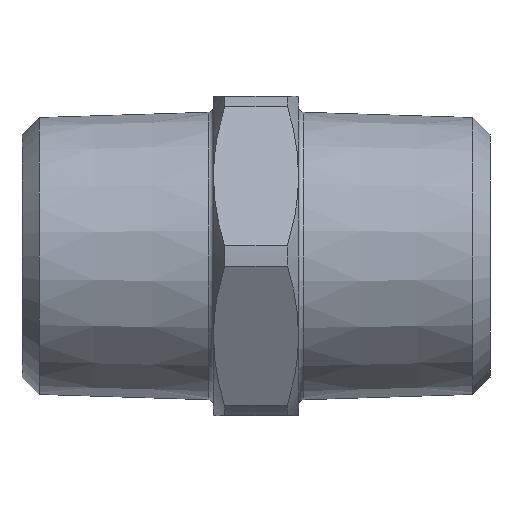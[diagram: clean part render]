
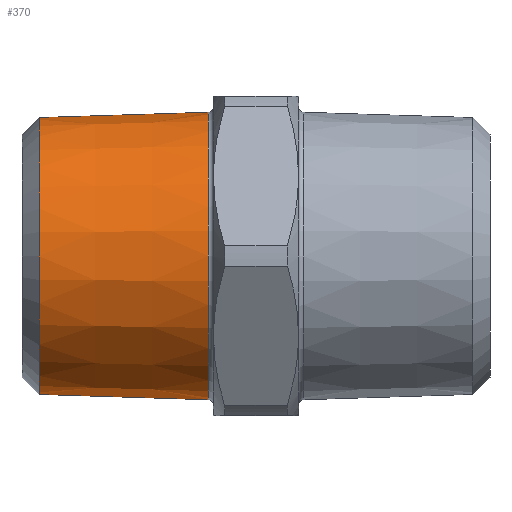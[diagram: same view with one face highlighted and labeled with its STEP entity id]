
A CAD part, front view. The second image highlights one B-rep face of the part: STEP entity #370.
In plain terms, the highlighted conical face has half-angle 1.79 degrees and reference radius 13.015 mm.
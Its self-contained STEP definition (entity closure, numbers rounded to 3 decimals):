
#11 = CARTESIAN_POINT ( 'NONE',  ( -42.4, 0., 13.015 ) ) ;
#32 = DIRECTION ( 'NONE',  ( 0., 0., -1. ) ) ;
#33 = DIRECTION ( 'NONE',  ( -1., 0., 0. ) ) ;
#35 = CARTESIAN_POINT ( 'NONE',  ( -26.484, 0., 0. ) ) ;
#63 = CARTESIAN_POINT ( 'NONE',  ( -26.484, 0., -13.512 ) ) ;
#164 = CARTESIAN_POINT ( 'NONE',  ( -26.484, 0., 13.512 ) ) ;
#169 = CARTESIAN_POINT ( 'NONE',  ( -42.4, 0., -13.015 ) ) ;
#177 = DIRECTION ( 'NONE',  ( 0., 0., -1. ) ) ;
#208 = CARTESIAN_POINT ( 'NONE',  ( -42.4, 0., 0. ) ) ;
#236 = DIRECTION ( 'NONE',  ( 1., 0., 0. ) ) ;
#300 = ORIENTED_EDGE ( 'NONE', *, *, #1512, .T. ) ;
#302 = ORIENTED_EDGE ( 'NONE', *, *, #1564, .T. ) ;
#303 = ORIENTED_EDGE ( 'NONE', *, *, #1533, .F. ) ;
#307 = ORIENTED_EDGE ( 'NONE', *, *, #1535, .T. ) ;
#370 = ADVANCED_FACE ( 'NONE', ( #575 ), #588, .T. ) ;
#575 = FACE_OUTER_BOUND ( 'NONE', #1010, .T. ) ;
#588 = CONICAL_SURFACE ( 'NONE', #1496, 13.015, 0.031 ) ;
#682 = CIRCLE ( 'NONE', #1441, 13.512 ) ;
#712 = LINE ( 'NONE', #1295, #716 ) ;
#716 = VECTOR ( 'NONE', #1244, 1000. ) ;
#717 = LINE ( 'NONE', #1281, #719 ) ;
#719 = VECTOR ( 'NONE', #1294, 1000. ) ;
#751 = CIRCLE ( 'NONE', #1405, 13.015 ) ;
#962 = VERTEX_POINT ( 'NONE', #164 ) ;
#969 = VERTEX_POINT ( 'NONE', #63 ) ;
#976 = VERTEX_POINT ( 'NONE', #11 ) ;
#977 = VERTEX_POINT ( 'NONE', #169 ) ;
#1010 = EDGE_LOOP ( 'NONE', ( #303, #302, #307, #300 ) ) ;
#1244 = DIRECTION ( 'NONE',  ( 1., 0., 0.031 ) ) ;
#1281 = CARTESIAN_POINT ( 'NONE',  ( -42.4, 0., -13.015 ) ) ;
#1284 = DIRECTION ( 'NONE',  ( 0., 0., -1. ) ) ;
#1286 = DIRECTION ( 'NONE',  ( 1., 0., 0. ) ) ;
#1287 = CARTESIAN_POINT ( 'NONE',  ( -42.4, 0., 0. ) ) ;
#1294 = DIRECTION ( 'NONE',  ( 1., 0., -0.031 ) ) ;
#1295 = CARTESIAN_POINT ( 'NONE',  ( -42.4, 0., 13.015 ) ) ;
#1405 = AXIS2_PLACEMENT_3D ( 'NONE', #1287, #1286, #1284 ) ;
#1441 = AXIS2_PLACEMENT_3D ( 'NONE', #35, #33, #32 ) ;
#1496 = AXIS2_PLACEMENT_3D ( 'NONE', #208, #236, #177 ) ;
#1512 = EDGE_CURVE ( 'NONE', #969, #962, #682, .T. ) ;
#1533 = EDGE_CURVE ( 'NONE', #976, #962, #712, .T. ) ;
#1535 = EDGE_CURVE ( 'NONE', #977, #969, #717, .T. ) ;
#1564 = EDGE_CURVE ( 'NONE', #976, #977, #751, .T. ) ;
